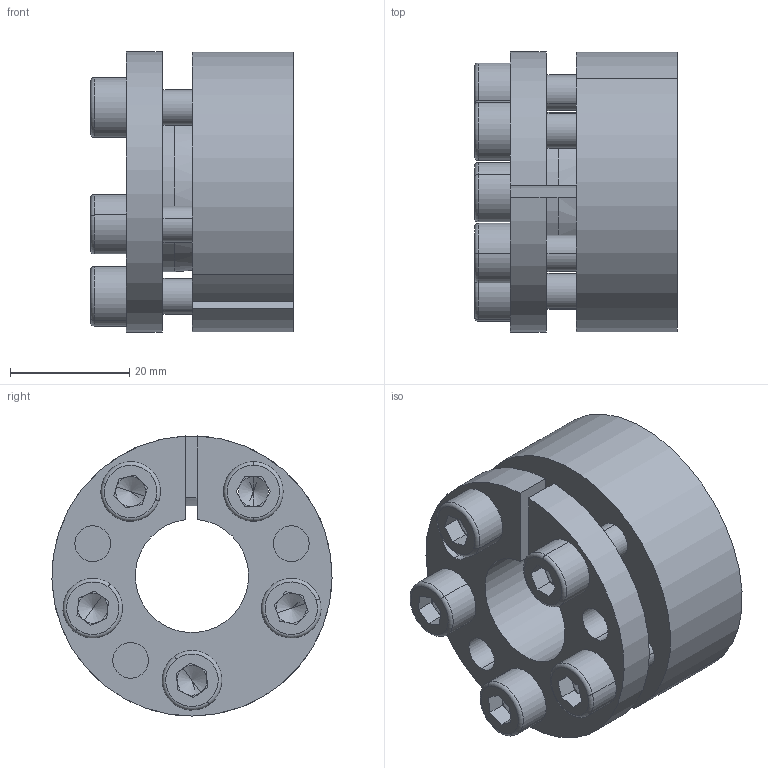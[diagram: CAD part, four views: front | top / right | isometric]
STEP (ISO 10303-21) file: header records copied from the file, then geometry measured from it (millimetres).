
FILE_DESCRIPTION (( 'STEP AP203' ), '1' );
FILE_NAME ('D1-19-47.STEP', '2017-10-12T04:22:25', ( 'MYCOM' ), ( '' ), 'SwSTEP 2.0', 'SolidWorks 2015', '' );
FILE_SCHEMA (( 'CONFIG_CONTROL_DESIGN' ));
Length unit declared in the file: millimetre
Products named in the file (1): D1-19-47
Bounding box: 34.01 x 46.99 x 46.98 mm (x, y, z)
Surface area: 18574.6 mm2 (no closed solid volume)
Topology: 0 solids, 12 shells, 151 faces, 380 edges, 231 vertices
Faces by surface type: plane 72, cylinder 55, cone 14, torus 10
Entity records: 4559 total; most frequent: DIRECTION 834, CARTESIAN_POINT 774, ORIENTED_EDGE 704, EDGE_CURVE 370, AXIS2_PLACEMENT_3D 316, VERTEX_POINT 231, LINE 202, VECTOR 202
